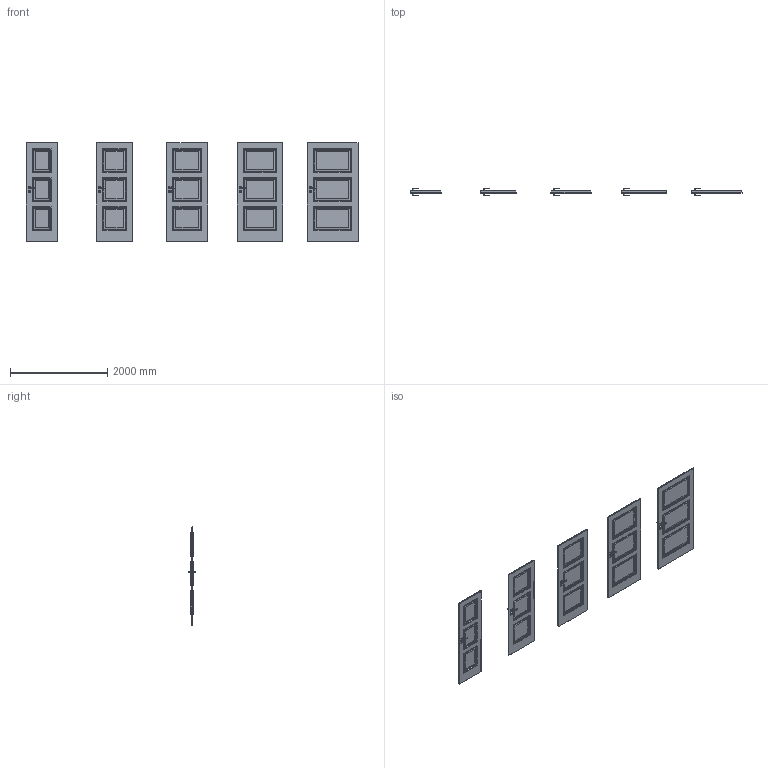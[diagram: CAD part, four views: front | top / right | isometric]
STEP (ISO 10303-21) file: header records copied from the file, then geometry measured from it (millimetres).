
FILE_DESCRIPTION(/* description */ (''),/* implementation_level */ '2;1');
FILE_NAME(/* name */ '049924_A_2-Skrzydło NOVA model 4.1_ polska norma _PN__ przylgowe..stp',/* time_stamp */ '2024-11-05T14:13:28+01:00',/* author */ (''),/* organization */ (''),/* preprocessor_version */ 'ST-DEVELOPER v16',/* originating_system */ 'SIEMENS PLM Software NX 11.0',/* authorisation */ '');
FILE_SCHEMA (('AUTOMOTIVE_DESIGN { 1 0 10303 214 3 1 1 1 }'));
Products named in the file (1): bkni379022B9h3f2
Bounding box: 6844 x 153.13 x 2030 mm (x, y, z)
Volume: 238518999.3 mm3; surface area: 21539210 mm2
Topology: 25 solids, 40 shells, 2860 faces, 7059 edges, 4059 vertices
Faces by surface type: plane 1505, bspline 935, cylinder 280, sphere 140
Entity records: 134648 total; most frequent: CARTESIAN_POINT 74813, ORIENTED_EDGE 13838, DIRECTION 9421, EDGE_CURVE 6919, LINE 4129, VECTOR 4129, VERTEX_POINT 4059, EDGE_LOOP 3060
